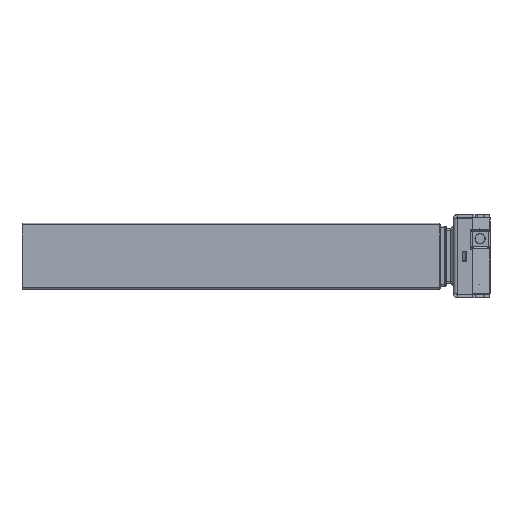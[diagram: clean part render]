
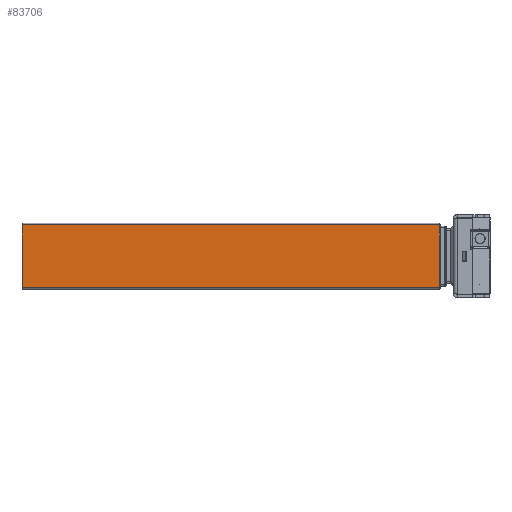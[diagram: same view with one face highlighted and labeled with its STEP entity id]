
A CAD part, left-side view. The second image highlights one B-rep face of the part: STEP entity #83706.
In plain terms, the highlighted planar face has unit normal (-1, 0, 0).
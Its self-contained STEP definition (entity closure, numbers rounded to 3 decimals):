
#2982 = DIRECTION ( 'NONE',  ( 0., 0., -1. ) ) ;
#6758 = EDGE_CURVE ( 'NONE', #47432, #58894, #73136, .T. ) ;
#8154 = ORIENTED_EDGE ( 'NONE', *, *, #78288, .T. ) ;
#13653 = EDGE_CURVE ( 'NONE', #58252, #85307, #91918, .T. ) ;
#17517 = VECTOR ( 'NONE', #81195, 39.37 ) ;
#19328 = ORIENTED_EDGE ( 'NONE', *, *, #49704, .T. ) ;
#19586 = VECTOR ( 'NONE', #80747, 39.37 ) ;
#24188 = CARTESIAN_POINT ( 'NONE',  ( -1.045, 2.516, 1.632 ) ) ;
#30403 = CARTESIAN_POINT ( 'NONE',  ( -1.045, 23.224, 1.632 ) ) ;
#31930 = PLANE ( 'NONE',  #33754 ) ;
#33754 = AXIS2_PLACEMENT_3D ( 'NONE', #60693, #61933, #61312 ) ;
#38647 = CARTESIAN_POINT ( 'NONE',  ( -1.045, 2.516, -1.557 ) ) ;
#45573 = LINE ( 'NONE', #38647, #51208 ) ;
#47432 = VERTEX_POINT ( 'NONE', #87369 ) ;
#49332 = ORIENTED_EDGE ( 'NONE', *, *, #6758, .T. ) ;
#49704 = EDGE_CURVE ( 'NONE', #58252, #47432, #78657, .T. ) ;
#50507 = FACE_OUTER_BOUND ( 'NONE', #82674, .T. ) ;
#51208 = VECTOR ( 'NONE', #89699, 39.37 ) ;
#58143 = CARTESIAN_POINT ( 'NONE',  ( -1.045, 2.516, 1.553 ) ) ;
#58252 = VERTEX_POINT ( 'NONE', #65569 ) ;
#58894 = VERTEX_POINT ( 'NONE', #89616 ) ;
#60081 = VECTOR ( 'NONE', #2982, 39.37 ) ;
#60693 = CARTESIAN_POINT ( 'NONE',  ( -1.045, 2.516, 1.632 ) ) ;
#61312 = DIRECTION ( 'NONE',  ( 0., -1., 0. ) ) ;
#61933 = DIRECTION ( 'NONE',  ( 1., 0., 0. ) ) ;
#65569 = CARTESIAN_POINT ( 'NONE',  ( -1.045, 2.516, 1.553 ) ) ;
#72283 = ORIENTED_EDGE ( 'NONE', *, *, #13653, .F. ) ;
#73136 = LINE ( 'NONE', #30403, #17517 ) ;
#78288 = EDGE_CURVE ( 'NONE', #58894, #85307, #45573, .T. ) ;
#78657 = LINE ( 'NONE', #58143, #19586 ) ;
#80747 = DIRECTION ( 'NONE',  ( 0., 1., 0. ) ) ;
#81195 = DIRECTION ( 'NONE',  ( 0., 0., -1. ) ) ;
#82674 = EDGE_LOOP ( 'NONE', ( #72283, #19328, #49332, #8154 ) ) ;
#83706 = ADVANCED_FACE ( 'NONE', ( #50507 ), #31930, .F. ) ;
#85307 = VERTEX_POINT ( 'NONE', #90617 ) ;
#87369 = CARTESIAN_POINT ( 'NONE',  ( -1.045, 23.224, 1.553 ) ) ;
#89616 = CARTESIAN_POINT ( 'NONE',  ( -1.045, 23.224, -1.557 ) ) ;
#89699 = DIRECTION ( 'NONE',  ( 0., -1., 0. ) ) ;
#90617 = CARTESIAN_POINT ( 'NONE',  ( -1.045, 2.516, -1.557 ) ) ;
#91918 = LINE ( 'NONE', #24188, #60081 ) ;
